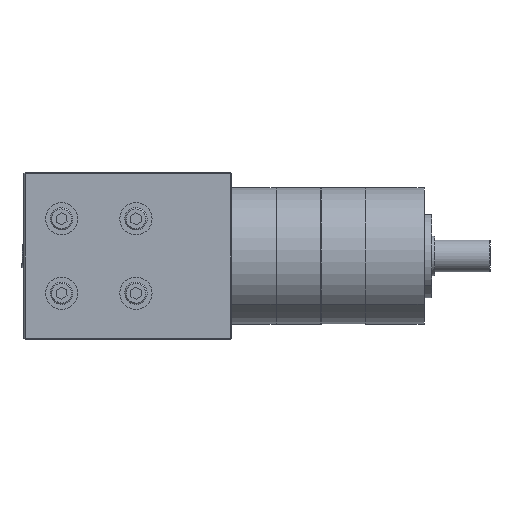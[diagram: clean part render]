
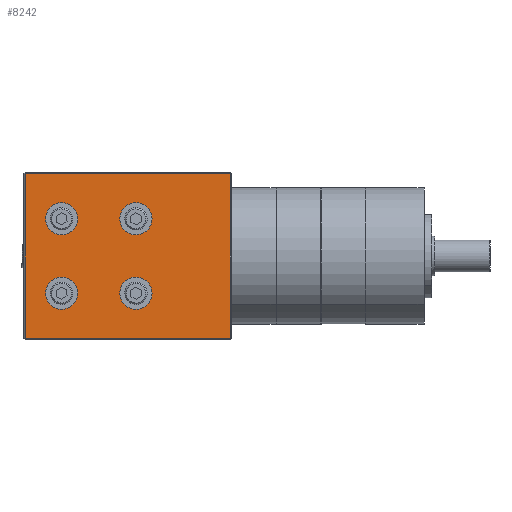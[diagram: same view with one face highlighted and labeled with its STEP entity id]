
A CAD part, front view. The second image highlights one B-rep face of the part: STEP entity #8242.
In plain terms, the highlighted planar face has unit normal (0, -1, 0).
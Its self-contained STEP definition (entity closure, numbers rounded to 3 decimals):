
#35 = ORIENTED_EDGE ( 'NONE', *, *, #4682, .T. ) ;
#229 = DIRECTION ( 'NONE',  ( 0., 0., -1. ) ) ;
#273 = EDGE_LOOP ( 'NONE', ( #2867, #35, #430, #12416 ) ) ;
#365 = AXIS2_PLACEMENT_3D ( 'NONE', #10353, #12885, #478 ) ;
#430 = ORIENTED_EDGE ( 'NONE', *, *, #15520, .T. ) ;
#448 = DIRECTION ( 'NONE',  ( 0., 0., -1. ) ) ;
#471 = CIRCLE ( 'NONE', #5307, 6.12 ) ;
#478 = DIRECTION ( 'NONE',  ( 0., 0., -1. ) ) ;
#494 = VERTEX_POINT ( 'NONE', #14898 ) ;
#594 = CIRCLE ( 'NONE', #6745, 6.12 ) ;
#634 = EDGE_CURVE ( 'NONE', #9214, #4970, #471, .T. ) ;
#1026 = DIRECTION ( 'NONE',  ( 0., -1., 0. ) ) ;
#1097 = EDGE_CURVE ( 'NONE', #14558, #7628, #9759, .T. ) ;
#1741 = CARTESIAN_POINT ( 'NONE',  ( -53.577, -100.506, -42.452 ) ) ;
#1853 = CARTESIAN_POINT ( 'NONE',  ( -10.858, -100.506, -60.059 ) ) ;
#2218 = FACE_BOUND ( 'NONE', #4757, .T. ) ;
#2261 = ORIENTED_EDGE ( 'NONE', *, *, #1097, .F. ) ;
#2443 = AXIS2_PLACEMENT_3D ( 'NONE', #13200, #11995, #10758 ) ;
#2538 = DIRECTION ( 'NONE',  ( 0., -1., 0. ) ) ;
#2867 = ORIENTED_EDGE ( 'NONE', *, *, #13877, .T. ) ;
#3259 = VERTEX_POINT ( 'NONE', #7785 ) ;
#3435 = EDGE_CURVE ( 'NONE', #7628, #14558, #12194, .T. ) ;
#3474 = VERTEX_POINT ( 'NONE', #14563 ) ;
#3896 = CARTESIAN_POINT ( 'NONE',  ( -39.146, -100.506, -60.059 ) ) ;
#4260 = DIRECTION ( 'NONE',  ( 0., 1., 0. ) ) ;
#4471 = VECTOR ( 'NONE', #14500, 1000. ) ;
#4640 = ORIENTED_EDGE ( 'NONE', *, *, #13565, .F. ) ;
#4682 = EDGE_CURVE ( 'NONE', #494, #14490, #12340, .T. ) ;
#4736 = DIRECTION ( 'NONE',  ( 0., 0., -1. ) ) ;
#4757 = EDGE_LOOP ( 'NONE', ( #6830, #2261 ) ) ;
#4970 = VERTEX_POINT ( 'NONE', #9091 ) ;
#5003 = DIRECTION ( 'NONE',  ( 0., -1., 0. ) ) ;
#5042 = CIRCLE ( 'NONE', #15748, 6.12 ) ;
#5075 = CARTESIAN_POINT ( 'NONE',  ( -53.069, -100.506, -42.452 ) ) ;
#5307 = AXIS2_PLACEMENT_3D ( 'NONE', #3896, #6406, #229 ) ;
#5473 = FACE_BOUND ( 'NONE', #6480, .T. ) ;
#5923 = ORIENTED_EDGE ( 'NONE', *, *, #634, .F. ) ;
#6148 = CARTESIAN_POINT ( 'NONE',  ( 24.986, -100.506, -42.452 ) ) ;
#6205 = DIRECTION ( 'NONE',  ( 0., 0., -1. ) ) ;
#6406 = DIRECTION ( 'NONE',  ( 0., -1., 0. ) ) ;
#6480 = EDGE_LOOP ( 'NONE', ( #15551, #11955 ) ) ;
#6629 = CARTESIAN_POINT ( 'NONE',  ( -10.858, -100.506, -82.226 ) ) ;
#6745 = AXIS2_PLACEMENT_3D ( 'NONE', #15885, #7126, #9637 ) ;
#6830 = ORIENTED_EDGE ( 'NONE', *, *, #3435, .F. ) ;
#7122 = DIRECTION ( 'NONE',  ( -1., 0., 0. ) ) ;
#7126 = DIRECTION ( 'NONE',  ( 0., -1., 0. ) ) ;
#7202 = DIRECTION ( 'NONE',  ( 0., 0., 1. ) ) ;
#7213 = CARTESIAN_POINT ( 'NONE',  ( 24.986, -100.506, -42.96 ) ) ;
#7296 = PLANE ( 'NONE',  #8815 ) ;
#7628 = VERTEX_POINT ( 'NONE', #13061 ) ;
#7695 = VERTEX_POINT ( 'NONE', #6629 ) ;
#7706 = CARTESIAN_POINT ( 'NONE',  ( -10.858, -100.506, -94.466 ) ) ;
#7785 = CARTESIAN_POINT ( 'NONE',  ( -39.146, -100.506, -82.226 ) ) ;
#7851 = CARTESIAN_POINT ( 'NONE',  ( -53.069, -100.506, -105.444 ) ) ;
#7957 = EDGE_CURVE ( 'NONE', #10149, #9404, #15698, .T. ) ;
#8016 = DIRECTION ( 'NONE',  ( 0., -1., 0. ) ) ;
#8064 = VECTOR ( 'NONE', #7122, 1000. ) ;
#8242 = ADVANCED_FACE ( 'NONE', ( #8749, #12634, #12055, #5473, #2218 ), #7296, .F. ) ;
#8287 = CARTESIAN_POINT ( 'NONE',  ( -10.858, -100.506, -88.346 ) ) ;
#8691 = ORIENTED_EDGE ( 'NONE', *, *, #11009, .F. ) ;
#8718 = ORIENTED_EDGE ( 'NONE', *, *, #10222, .F. ) ;
#8749 = FACE_OUTER_BOUND ( 'NONE', #273, .T. ) ;
#8801 = DIRECTION ( 'NONE',  ( 0., 0., 1. ) ) ;
#8815 = AXIS2_PLACEMENT_3D ( 'NONE', #1741, #4260, #8801 ) ;
#8897 = CARTESIAN_POINT ( 'NONE',  ( -39.146, -100.506, -66.179 ) ) ;
#8946 = EDGE_CURVE ( 'NONE', #7695, #10476, #9317, .T. ) ;
#9091 = CARTESIAN_POINT ( 'NONE',  ( -39.146, -100.506, -53.939 ) ) ;
#9214 = VERTEX_POINT ( 'NONE', #8897 ) ;
#9317 = CIRCLE ( 'NONE', #2443, 6.12 ) ;
#9404 = VERTEX_POINT ( 'NONE', #7851 ) ;
#9427 = VECTOR ( 'NONE', #7202, 1000. ) ;
#9486 = LINE ( 'NONE', #15886, #4471 ) ;
#9637 = DIRECTION ( 'NONE',  ( 0., 0., -1. ) ) ;
#9759 = CIRCLE ( 'NONE', #12459, 6.12 ) ;
#10149 = VERTEX_POINT ( 'NONE', #10618 ) ;
#10222 = EDGE_CURVE ( 'NONE', #3474, #3259, #594, .T. ) ;
#10353 = CARTESIAN_POINT ( 'NONE',  ( -39.146, -100.506, -88.346 ) ) ;
#10468 = CARTESIAN_POINT ( 'NONE',  ( -39.146, -100.506, -60.059 ) ) ;
#10476 = VERTEX_POINT ( 'NONE', #7706 ) ;
#10618 = CARTESIAN_POINT ( 'NONE',  ( -53.069, -100.506, -42.96 ) ) ;
#10758 = DIRECTION ( 'NONE',  ( 0., 0., -1. ) ) ;
#10848 = CARTESIAN_POINT ( 'NONE',  ( -10.858, -100.506, -60.059 ) ) ;
#11009 = EDGE_CURVE ( 'NONE', #4970, #9214, #15610, .T. ) ;
#11293 = AXIS2_PLACEMENT_3D ( 'NONE', #10468, #2538, #15889 ) ;
#11590 = DIRECTION ( 'NONE',  ( 0., 0., -1. ) ) ;
#11955 = ORIENTED_EDGE ( 'NONE', *, *, #8946, .F. ) ;
#11995 = DIRECTION ( 'NONE',  ( 0., -1., 0. ) ) ;
#12055 = FACE_BOUND ( 'NONE', #13821, .T. ) ;
#12194 = CIRCLE ( 'NONE', #14869, 6.12 ) ;
#12297 = EDGE_LOOP ( 'NONE', ( #5923, #8691 ) ) ;
#12340 = LINE ( 'NONE', #6148, #9427 ) ;
#12416 = ORIENTED_EDGE ( 'NONE', *, *, #7957, .T. ) ;
#12459 = AXIS2_PLACEMENT_3D ( 'NONE', #1853, #8016, #448 ) ;
#12584 = CARTESIAN_POINT ( 'NONE',  ( -10.858, -100.506, -53.939 ) ) ;
#12634 = FACE_BOUND ( 'NONE', #12297, .T. ) ;
#12818 = VECTOR ( 'NONE', #6205, 1000. ) ;
#12885 = DIRECTION ( 'NONE',  ( 0., -1., 0. ) ) ;
#13061 = CARTESIAN_POINT ( 'NONE',  ( -10.858, -100.506, -66.179 ) ) ;
#13200 = CARTESIAN_POINT ( 'NONE',  ( -10.858, -100.506, -88.346 ) ) ;
#13565 = EDGE_CURVE ( 'NONE', #3259, #3474, #15851, .T. ) ;
#13657 = EDGE_CURVE ( 'NONE', #10476, #7695, #5042, .T. ) ;
#13821 = EDGE_LOOP ( 'NONE', ( #8718, #4640 ) ) ;
#13877 = EDGE_CURVE ( 'NONE', #9404, #494, #9486, .T. ) ;
#14490 = VERTEX_POINT ( 'NONE', #7213 ) ;
#14500 = DIRECTION ( 'NONE',  ( 1., 0., 0. ) ) ;
#14558 = VERTEX_POINT ( 'NONE', #12584 ) ;
#14563 = CARTESIAN_POINT ( 'NONE',  ( -39.146, -100.506, -94.466 ) ) ;
#14869 = AXIS2_PLACEMENT_3D ( 'NONE', #10848, #1026, #4736 ) ;
#14898 = CARTESIAN_POINT ( 'NONE',  ( 24.986, -100.506, -105.444 ) ) ;
#15051 = LINE ( 'NONE', #15882, #8064 ) ;
#15520 = EDGE_CURVE ( 'NONE', #14490, #10149, #15051, .T. ) ;
#15551 = ORIENTED_EDGE ( 'NONE', *, *, #13657, .F. ) ;
#15610 = CIRCLE ( 'NONE', #11293, 6.12 ) ;
#15698 = LINE ( 'NONE', #5075, #12818 ) ;
#15748 = AXIS2_PLACEMENT_3D ( 'NONE', #8287, #5003, #11590 ) ;
#15851 = CIRCLE ( 'NONE', #365, 6.12 ) ;
#15882 = CARTESIAN_POINT ( 'NONE',  ( -53.577, -100.506, -42.96 ) ) ;
#15885 = CARTESIAN_POINT ( 'NONE',  ( -39.146, -100.506, -88.346 ) ) ;
#15886 = CARTESIAN_POINT ( 'NONE',  ( -53.577, -100.506, -105.444 ) ) ;
#15889 = DIRECTION ( 'NONE',  ( 0., 0., -1. ) ) ;
